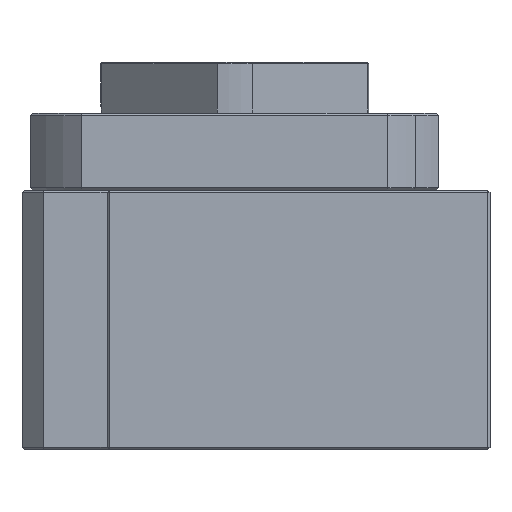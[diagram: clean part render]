
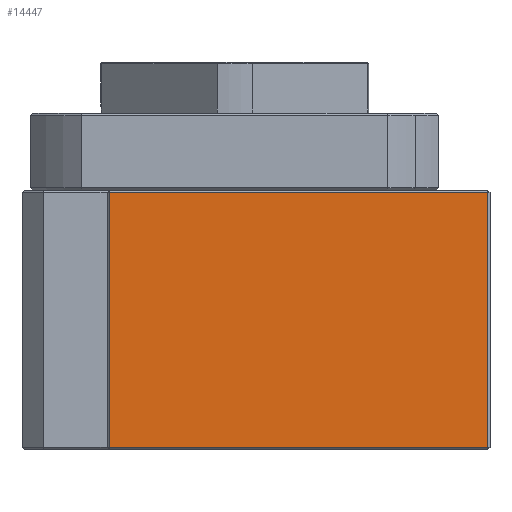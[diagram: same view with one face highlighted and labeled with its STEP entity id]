
A CAD part, left-side view. The second image highlights one B-rep face of the part: STEP entity #14447.
In plain terms, the highlighted planar face has unit normal (-1, 0, 0).
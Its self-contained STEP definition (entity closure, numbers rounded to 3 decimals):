
#81 = CARTESIAN_POINT ( 'NONE',  ( -80., -59.5, 30. ) ) ;
#102 = CARTESIAN_POINT ( 'NONE',  ( -80., -59.5, -30. ) ) ;
#106 = CARTESIAN_POINT ( 'NONE',  ( -80., 29.5, -30. ) ) ;
#109 = CARTESIAN_POINT ( 'NONE',  ( -80., 29.5, 30. ) ) ;
#2850 = PLANE ( 'NONE',  #13597 ) ;
#2851 = CARTESIAN_POINT ( 'NONE',  ( -80., 30., 30.5 ) ) ;
#2852 = DIRECTION ( 'NONE',  ( 1., 0., 0. ) ) ;
#2853 = DIRECTION ( 'NONE',  ( 0., 1., 0. ) ) ;
#3911 = VECTOR ( 'NONE', #5763, 1000. ) ;
#3912 = VECTOR ( 'NONE', #5766, 1000. ) ;
#3913 = VECTOR ( 'NONE', #5769, 1000. ) ;
#3914 = VECTOR ( 'NONE', #5772, 1000. ) ;
#5761 = LINE ( 'NONE', #5762, #3911 ) ;
#5762 = CARTESIAN_POINT ( 'NONE',  ( -80., 30., 30. ) ) ;
#5763 = DIRECTION ( 'NONE',  ( 0., 1., 0. ) ) ;
#5764 = LINE ( 'NONE', #5765, #3912 ) ;
#5765 = CARTESIAN_POINT ( 'NONE',  ( -80., -59.5, 30.5 ) ) ;
#5766 = DIRECTION ( 'NONE',  ( 0., 0., 1. ) ) ;
#5767 = LINE ( 'NONE', #5768, #3913 ) ;
#5768 = CARTESIAN_POINT ( 'NONE',  ( -80., 29.5, 30.5 ) ) ;
#5769 = DIRECTION ( 'NONE',  ( 0., 0., -1. ) ) ;
#5770 = LINE ( 'NONE', #5771, #3914 ) ;
#5771 = CARTESIAN_POINT ( 'NONE',  ( -80., 30., -30. ) ) ;
#5772 = DIRECTION ( 'NONE',  ( 0., -1., 0. ) ) ;
#8888 = VERTEX_POINT ( 'NONE', #81 ) ;
#8909 = VERTEX_POINT ( 'NONE', #102 ) ;
#8913 = VERTEX_POINT ( 'NONE', #106 ) ;
#8916 = VERTEX_POINT ( 'NONE', #109 ) ;
#10387 = EDGE_LOOP ( 'NONE', ( #10957, #10951, #10952, #10950 ) ) ;
#10950 = ORIENTED_EDGE ( 'NONE', *, *, #12018, .T. ) ;
#10951 = ORIENTED_EDGE ( 'NONE', *, *, #12021, .T. ) ;
#10952 = ORIENTED_EDGE ( 'NONE', *, *, #12019, .T. ) ;
#10957 = ORIENTED_EDGE ( 'NONE', *, *, #12020, .T. ) ;
#12018 = EDGE_CURVE ( 'NONE', #8888, #8916, #5761, .T. ) ;
#12019 = EDGE_CURVE ( 'NONE', #8909, #8888, #5764, .T. ) ;
#12020 = EDGE_CURVE ( 'NONE', #8916, #8913, #5767, .T. ) ;
#12021 = EDGE_CURVE ( 'NONE', #8913, #8909, #5770, .T. ) ;
#13597 = AXIS2_PLACEMENT_3D ( 'NONE', #2851, #2852, #2853 ) ;
#13599 = FACE_OUTER_BOUND ( 'NONE', #10387, .T. ) ;
#14447 = ADVANCED_FACE ( 'NONE', ( #13599 ), #2850, .F. ) ;
